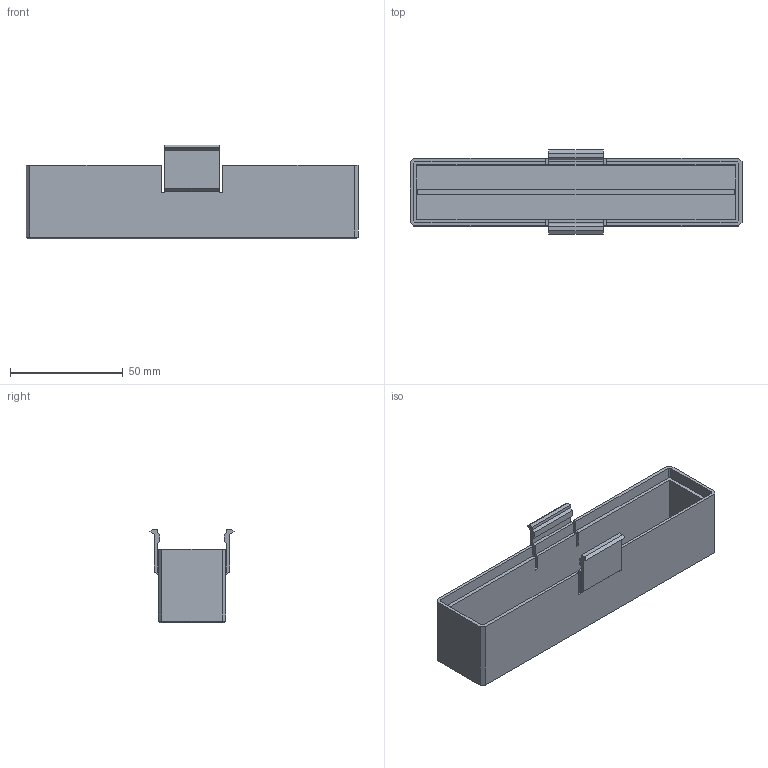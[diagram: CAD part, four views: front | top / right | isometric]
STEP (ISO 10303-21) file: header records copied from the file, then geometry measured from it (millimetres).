
FILE_DESCRIPTION(('Open CASCADE Model'),'2;1');
FILE_NAME('Open CASCADE Shape Model','2026-11-16T13:42:41',('Author'),( 'Open CASCADE'),'Open CASCADE STEP processor 8.0','build123d', 'Unknown');
FILE_SCHEMA(('AUTOMOTIVE_DESIGN { 1 0 10303 214 1 1 1 1 }'));
Length unit declared in the file: millimetre
Products named in the file (2): =>[0:1:1:2]; COMPOUND
Assembly tree (1 placements, depth 2):
  =>[0:1:1:2]
    COMPOUND
Bounding box: 147 x 37.2 x 41.5 mm (x, y, z)
Volume: 42946.1 mm3; surface area: 34873 mm2
Topology: 1 solids, 1 shells, 1904 faces, 5620 edges, 3744 vertices
Faces by surface type: plane 1904
Entity records: 131500 total; most frequent: CARTESIAN_POINT 26218, DIRECTION 16964, LINE 13152, VECTOR 13152, ORIENTED_EDGE 11240, PCURVE 11240, DEFINITIONAL_REPRESENTATION 11240, EDGE_CURVE 5620
